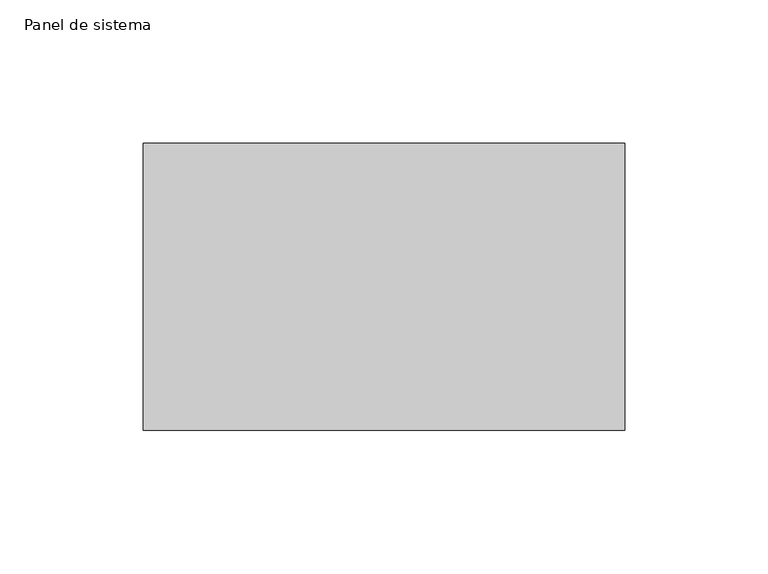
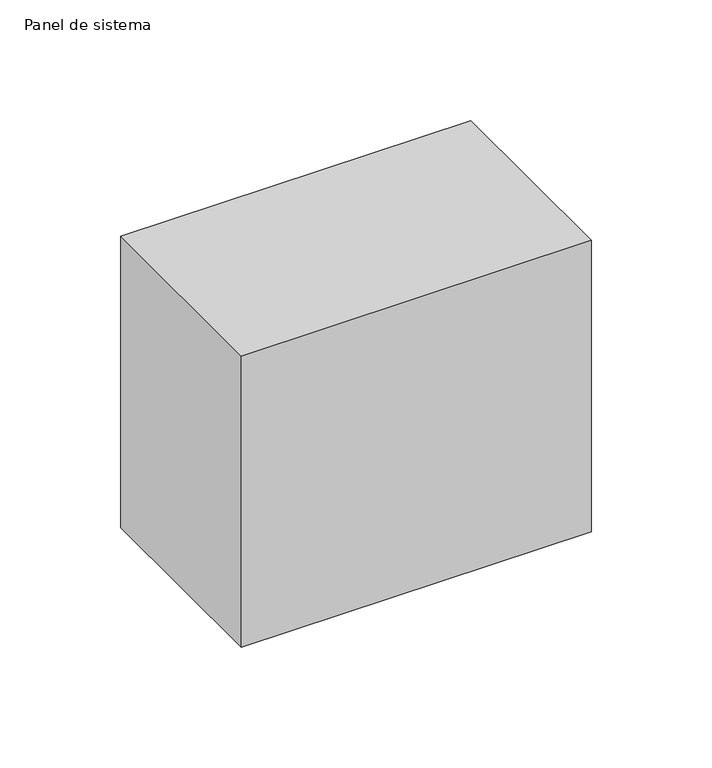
"""IFC4 building model written with IfcOpenShell, lengths in millimetres: plate geometry, Panel de sistema : PAVES."""

import ifcopenshell
import ifcopenshell.guid

model = None  # the IFC model being written
_history = None  # IfcOwnerHistory: only IFC2X3 demands one
_inside = {}  # id of a spatial element -> (the spatial element, [elements in it])
_under = {}  # id of a project, library or spatial element -> (it, [spatial elements below it])
_declared = {}  # id of a project -> (the project, [libraries it declares])
_typed = {}  # id of a type object -> (the type object, [elements of that type])
_made_of = {}  # id of a material, layer set ... -> (it, [elements and type objects made of it])


def new_model(schema):
    """Start an empty IFC model of exactly this schema.

    Asked for "IFC4X3", IfcOpenShell would pick the latest addendum, in which some entities
    have other attributes; the version numbers below select the first issue.
    IFC2X3 requires an IfcOwnerHistory on every rooted entity: one is made here for all.
    """
    global model, _history
    if schema == "IFC4X3":
        model = ifcopenshell.file(schema_version=(4, 3, 0, 0))
    else:
        model = ifcopenshell.file(schema=schema)
    _inside.clear()
    _under.clear()
    _declared.clear()
    _typed.clear()
    _made_of.clear()
    _history = None
    if model.schema == "IFC2X3":
        org = make("IfcOrganization", Name="unknown")
        user = make(
            "IfcPersonAndOrganization",
            ThePerson=make("IfcPerson", FamilyName="unknown"),
            TheOrganization=org,
        )
        app = make(
            "IfcApplication",
            ApplicationDeveloper=org,
            Version="unknown",
            ApplicationFullName="unknown",
            ApplicationIdentifier="unknown",
        )
        _history = make(
            "IfcOwnerHistory",
            OwningUser=user,
            OwningApplication=app,
            ChangeAction="ADDED",
            CreationDate=0,
        )
    return model


def make(cls, **values):
    """One entity of the class cls with the attributes given. An attribute that is None is left unset."""
    return model.create_entity(
        cls, **{name: value for name, value in values.items() if value is not None}
    )


def rooted(cls, **values):
    """An entity with a GlobalId (a new one), such as an element, a storey or a relation."""
    return make(cls, GlobalId=ifcopenshell.guid.new(), OwnerHistory=_history, **values)


def si_unit(unit_type, name, prefix=None):
    """IfcSIUnit, for example si_unit("LENGTHUNIT", "METRE", prefix="MILLI")."""
    return make("IfcSIUnit", UnitType=unit_type, Prefix=prefix, Name=name)


def assignment(units):
    """IfcUnitAssignment: the units of a project."""
    return None if units is None else make("IfcUnitAssignment", Units=units)


def point(xyz):
    """IfcCartesianPoint."""
    return None if xyz is None else make("IfcCartesianPoint", Coordinates=xyz)


def direction(xyz):
    """IfcDirection."""
    return None if xyz is None else make("IfcDirection", DirectionRatios=xyz)


def frame(location, z_axis=None, x_axis=None):
    """IfcAxis2Placement3D, a coordinate frame: its origin and axes. An axis left out is left unset."""
    return make(
        "IfcAxis2Placement3D",
        Location=point(location),
        Axis=direction(z_axis),
        RefDirection=direction(x_axis),
    )


def origin():
    """The frame at (0, 0, 0) with its axes left unset."""
    return frame((0.0, 0.0, 0.0))


def origin_with_axes():
    """The frame at (0, 0, 0) with the z axis (0, 0, 1) and the x axis (1, 0, 0) written out."""
    return frame((0.0, 0.0, 0.0), z_axis=(0.0, 0.0, 1.0), x_axis=(1.0, 0.0, 0.0))


def place(relative_to, where):
    """IfcLocalPlacement: puts the frame where relative to a parent placement (None: the world)."""
    return make(
        "IfcLocalPlacement", PlacementRelTo=relative_to, RelativePlacement=where
    )


def context(
    kind, dimensions, precision=None, world=None, true_north=None, identifier=None
):
    """IfcGeometricRepresentationContext, for example the 3D "Model" context."""
    return make(
        "IfcGeometricRepresentationContext",
        ContextIdentifier=identifier,
        ContextType=kind,
        CoordinateSpaceDimension=dimensions,
        Precision=precision,
        WorldCoordinateSystem=world,
        TrueNorth=true_north,
    )


def project(units=None, contexts=None):
    """IfcProject with its units and contexts."""
    return rooted(
        "IfcProject",
        Name="project",
        RepresentationContexts=contexts,
        UnitsInContext=assignment(units),
    )


def spatial(cls, under=None, at=None, **own):
    """A site, building, storey or space (cls), placed at a placement, below another one or the project."""
    s = rooted(cls, ObjectPlacement=at, **own)
    if under is not None:
        _under.setdefault(under.id(), (under, []))[1].append(s)
    return s


def polyline(points):
    """IfcPolyline through the points."""
    return make("IfcPolyline", Points=[point(p) for p in points])


def outline(outer, holes=None, kind="AREA"):
    """IfcArbitraryClosedProfileDef: a profile drawn as a closed curve; with holes, ...WithVoids."""
    if holes is None:
        return make("IfcArbitraryClosedProfileDef", ProfileType=kind, OuterCurve=outer)
    return make(
        "IfcArbitraryProfileDefWithVoids",
        ProfileType=kind,
        OuterCurve=outer,
        InnerCurves=holes,
    )


def extrude(swept, where, along, depth):
    """IfcExtrudedAreaSolid: the profile swept, set in the frame where, extruded along a direction by depth."""
    return make(
        "IfcExtrudedAreaSolid",
        SweptArea=swept,
        Position=where,
        ExtrudedDirection=direction(along),
        Depth=depth,
    )


def shape(context_of_items, identifier, shape_type, items):
    """IfcShapeRepresentation: the items that make up one representation, for example the "Body"."""
    return make(
        "IfcShapeRepresentation",
        ContextOfItems=context_of_items,
        RepresentationIdentifier=identifier,
        RepresentationType=shape_type,
        Items=items,
    )


def source(mapping_origin, context_of_items, identifier, shape_type, items):
    """IfcRepresentationMap: a shape defined once, which mapped items show again and again."""
    return make(
        "IfcRepresentationMap",
        MappingOrigin=mapping_origin,
        MappedRepresentation=shape(context_of_items, identifier, shape_type, items),
    )


def transform(
    local_origin,
    x_axis=None,
    y_axis=None,
    z_axis=None,
    scale=None,
    scale2=None,
    scale3=None,
    uniform=True,
):
    """IfcCartesianTransformationOperator3D, or its non-uniform kind. x_axis, y_axis, z_axis: its Axis1, 2, 3."""
    if uniform:
        return make(
            "IfcCartesianTransformationOperator3D",
            Axis1=direction(x_axis),
            Axis2=direction(y_axis),
            LocalOrigin=point(local_origin),
            Scale=scale,
            Axis3=direction(z_axis),
        )
    return make(
        "IfcCartesianTransformationOperator3DnonUniform",
        Axis1=direction(x_axis),
        Axis2=direction(y_axis),
        LocalOrigin=point(local_origin),
        Scale=scale,
        Axis3=direction(z_axis),
        Scale2=scale2,
        Scale3=scale3,
    )


def mapped(mapping_source, mapping_target):
    """IfcMappedItem: shows the shape of a source again, moved by a transform."""
    return make(
        "IfcMappedItem", MappingSource=mapping_source, MappingTarget=mapping_target
    )


def made_of(thing, what):
    """Note that an element or type object is made of a material, layer set ...; save() writes the relation."""
    if what is not None:
        _made_of.setdefault(what.id(), (what, []))[1].append(thing)
    return thing


def element(
    cls,
    number,
    at=None,
    inside=None,
    cuts=None,
    type_object=None,
    material=None,
    context=None,
    identifier="Body",
    shape_type=None,
    held_by="IfcProductDefinitionShape",
    body=None,
    shapes=None,
    **own,
):
    """One element of the class cls, such as IfcWall. Its Tag is "e" and its number.

    at: its placement. inside: the storey or other place that contains it. cuts: it is an
    opening in that element (IfcRelVoidsElement). A single representation is given by context,
    identifier, shape_type and body (its items); several are given by shapes. held_by: the class
    of the entity that holds the representations. save() writes the other relations.
    """
    e = rooted(cls, Tag="e%d" % number, ObjectPlacement=at, **own)
    if body is not None:
        shapes = [shape(context, identifier, shape_type, body)]
    if shapes is not None:
        e.Representation = make(held_by, Representations=shapes)
    if inside is not None:
        _inside.setdefault(inside.id(), (inside, []))[1].append(e)
    if cuts is not None:
        rooted(
            "IfcRelVoidsElement", RelatingBuildingElement=cuts, RelatedOpeningElement=e
        )
    if type_object is not None:
        _typed.setdefault(type_object.id(), (type_object, []))[1].append(e)
    return made_of(e, material)


def aggregate(whole, parts):
    """IfcRelAggregates: a whole, such as a stair, and the parts it consists of."""
    return rooted("IfcRelAggregates", RelatingObject=whole, RelatedObjects=parts)


def save(model, path):
    """Write the relations noted so far, then the file.

    IfcRelAggregates (storeys below a building ...), IfcRelContainedInSpatialStructure (elements
    in a storey), IfcRelDefinesByType, IfcRelAssociatesMaterial and IfcRelDeclares: one each for
    every whole, place, type object, material and project.
    """
    for whole, parts in _under.values():
        aggregate(whole, parts)
    for where, things in _inside.values():
        rooted(
            "IfcRelContainedInSpatialStructure",
            RelatedElements=things,
            RelatingStructure=where,
        )
    for kind, things in _typed.values():
        rooted("IfcRelDefinesByType", RelatedObjects=things, RelatingType=kind)
    for what, things in _made_of.values():
        rooted("IfcRelAssociatesMaterial", RelatedObjects=things, RelatingMaterial=what)
    for by, libraries in _declared.values():
        rooted("IfcRelDeclares", RelatingContext=by, RelatedDefinitions=libraries)
    model.write(path)


def panel_de_sistema_1168f021(model_context):
    return source(origin(), model_context, "Body", "SweptSolid", [
        extrude(outline(polyline([(83.8692571, -50.0), (-83.8692571, -50.0), (-83.8692571, 50.0), (83.8692571, 50.0), (83.8692571, -50.0)])), origin_with_axes(), (0.0, 0.0, 1.0), 147.5),
    ])


if __name__ == "__main__":
    model = new_model("IFC4")
    model_context = context("Model", 3, world=origin())
    ifc_project = project(units=[si_unit("LENGTHUNIT", "METRE", prefix="MILLI")], contexts=[model_context])
    site = spatial("IfcSite", under=ifc_project)
    building = spatial("IfcBuilding", under=site)
    placement = place(None, origin())
    panel_de_sistema_shape = panel_de_sistema_1168f021(model_context)
    element("IfcPlate", 1, ObjectType="Panel de sistema : PAVES", at=placement, inside=building, context=model_context, shape_type="MappedRepresentation", body=[
        mapped(panel_de_sistema_shape, transform((0.0, 0.0, 0.0), x_axis=(1.0, 0.0, 0.0), y_axis=(0.0, 1.0, 0.0), z_axis=(0.0, 0.0, 1.0))),
    ])
    save(model, "model.ifc")
